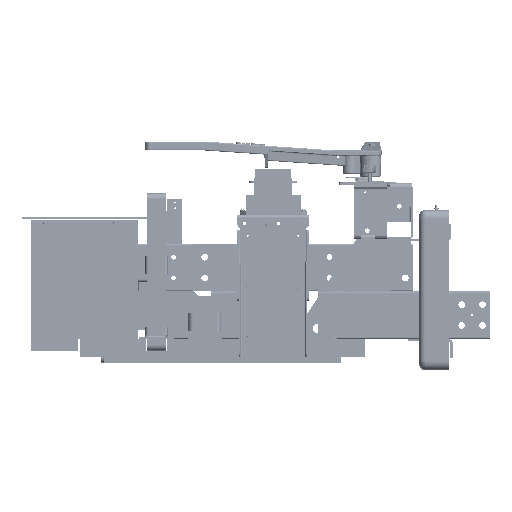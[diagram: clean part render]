
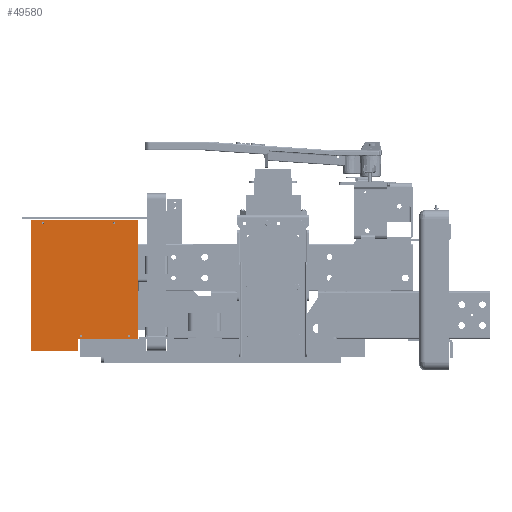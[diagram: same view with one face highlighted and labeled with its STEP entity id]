
A CAD part, left-side view. The second image highlights one B-rep face of the part: STEP entity #49580.
In plain terms, the highlighted planar face has unit normal (-1, 0, 0) as drawn and (0, 0, -1) by its records, which use the part's own axes.
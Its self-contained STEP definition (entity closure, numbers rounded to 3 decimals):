
#3313=FACE_BOUND('',#10267,.T.);
#3314=FACE_BOUND('',#10268,.T.);
#3315=FACE_BOUND('',#10269,.T.);
#3316=FACE_BOUND('',#10270,.T.);
#4703=CIRCLE('',#54612,0.097);
#4705=CIRCLE('',#54615,0.097);
#4707=CIRCLE('',#54618,0.097);
#4709=CIRCLE('',#54621,0.097);
#7133=FACE_OUTER_BOUND('',#10266,.T.);
#10266=EDGE_LOOP('',(#37239,#37240,#37241,#37242,#37243,#37244));
#10267=EDGE_LOOP('',(#37245));
#10268=EDGE_LOOP('',(#37246));
#10269=EDGE_LOOP('',(#37247));
#10270=EDGE_LOOP('',(#37248));
#14194=LINE('',#77389,#18429);
#14198=LINE('',#77397,#18433);
#14201=LINE('',#77403,#18436);
#14204=LINE('',#77409,#18439);
#14207=LINE('',#77415,#18442);
#14210=LINE('',#77420,#18445);
#18429=VECTOR('',#62681,0.394);
#18433=VECTOR('',#62687,0.394);
#18436=VECTOR('',#62692,0.394);
#18439=VECTOR('',#62697,0.394);
#18442=VECTOR('',#62702,0.394);
#18445=VECTOR('',#62707,0.394);
#22738=VERTEX_POINT('',#77365);
#22740=VERTEX_POINT('',#77371);
#22742=VERTEX_POINT('',#77377);
#22744=VERTEX_POINT('',#77383);
#22745=VERTEX_POINT('',#77387);
#22746=VERTEX_POINT('',#77388);
#22749=VERTEX_POINT('',#77396);
#22751=VERTEX_POINT('',#77402);
#22753=VERTEX_POINT('',#77408);
#22755=VERTEX_POINT('',#77414);
#28044=EDGE_CURVE('',#22738,#22738,#4703,.T.);
#28047=EDGE_CURVE('',#22740,#22740,#4705,.T.);
#28050=EDGE_CURVE('',#22742,#22742,#4707,.T.);
#28053=EDGE_CURVE('',#22744,#22744,#4709,.T.);
#28054=EDGE_CURVE('',#22745,#22746,#14194,.T.);
#28058=EDGE_CURVE('',#22746,#22749,#14198,.T.);
#28061=EDGE_CURVE('',#22749,#22751,#14201,.T.);
#28064=EDGE_CURVE('',#22751,#22753,#14204,.T.);
#28067=EDGE_CURVE('',#22753,#22755,#14207,.T.);
#28070=EDGE_CURVE('',#22755,#22745,#14210,.T.);
#37239=ORIENTED_EDGE('',*,*,#28054,.F.);
#37240=ORIENTED_EDGE('',*,*,#28070,.F.);
#37241=ORIENTED_EDGE('',*,*,#28067,.F.);
#37242=ORIENTED_EDGE('',*,*,#28064,.F.);
#37243=ORIENTED_EDGE('',*,*,#28061,.F.);
#37244=ORIENTED_EDGE('',*,*,#28058,.F.);
#37245=ORIENTED_EDGE('',*,*,#28044,.T.);
#37246=ORIENTED_EDGE('',*,*,#28047,.T.);
#37247=ORIENTED_EDGE('',*,*,#28050,.T.);
#37248=ORIENTED_EDGE('',*,*,#28053,.T.);
#47836=PLANE('',#54628);
#49580=ADVANCED_FACE('',(#7133,#3313,#3314,#3315,#3316),#47836,.F.);
#54612=AXIS2_PLACEMENT_3D('',#77367,#62656,#62657);
#54615=AXIS2_PLACEMENT_3D('',#77373,#62663,#62664);
#54618=AXIS2_PLACEMENT_3D('',#77379,#62670,#62671);
#54621=AXIS2_PLACEMENT_3D('',#77385,#62677,#62678);
#54628=AXIS2_PLACEMENT_3D('',#77422,#62709,#62710);
#62656=DIRECTION('center_axis',(0.,0.,1.));
#62657=DIRECTION('ref_axis',(-1.,0.,0.));
#62663=DIRECTION('center_axis',(0.,0.,1.));
#62664=DIRECTION('ref_axis',(-1.,0.,0.));
#62670=DIRECTION('center_axis',(0.,0.,1.));
#62671=DIRECTION('ref_axis',(-1.,0.,0.));
#62677=DIRECTION('center_axis',(0.,0.,1.));
#62678=DIRECTION('ref_axis',(-1.,0.,0.));
#62681=DIRECTION('',(0.,-1.,0.));
#62687=DIRECTION('',(1.,0.,0.));
#62692=DIRECTION('',(0.,1.,0.));
#62697=DIRECTION('',(1.,0.,0.));
#62702=DIRECTION('',(0.,1.,0.));
#62707=DIRECTION('',(-1.,0.,0.));
#62709=DIRECTION('center_axis',(0.,0.,1.));
#62710=DIRECTION('ref_axis',(1.,0.,0.));
#77365=CARTESIAN_POINT('',(9.847,4.75,-0.125));
#77367=CARTESIAN_POINT('Origin',(9.75,4.75,-0.125));
#77371=CARTESIAN_POINT('',(9.847,0.75,-0.125));
#77373=CARTESIAN_POINT('Origin',(9.75,0.75,-0.125));
#77377=CARTESIAN_POINT('',(0.347,8.,-0.125));
#77379=CARTESIAN_POINT('Origin',(0.25,8.,-0.125));
#77383=CARTESIAN_POINT('',(0.347,2.,-0.125));
#77385=CARTESIAN_POINT('Origin',(0.25,2.,-0.125));
#77387=CARTESIAN_POINT('',(0.,9.,-0.125));
#77388=CARTESIAN_POINT('',(0.,0.,-0.125));
#77389=CARTESIAN_POINT('',(0.,9.,-0.125));
#77396=CARTESIAN_POINT('',(10.,0.,-0.125));
#77397=CARTESIAN_POINT('',(0.,0.,-0.125));
#77402=CARTESIAN_POINT('',(10.,5.063,-0.125));
#77403=CARTESIAN_POINT('',(10.,0.,-0.125));
#77408=CARTESIAN_POINT('',(11.,5.063,-0.125));
#77409=CARTESIAN_POINT('',(10.,5.063,-0.125));
#77414=CARTESIAN_POINT('',(11.,9.,-0.125));
#77415=CARTESIAN_POINT('',(11.,5.063,-0.125));
#77420=CARTESIAN_POINT('',(11.,9.,-0.125));
#77422=CARTESIAN_POINT('Origin',(5.373,4.627,-0.125));
